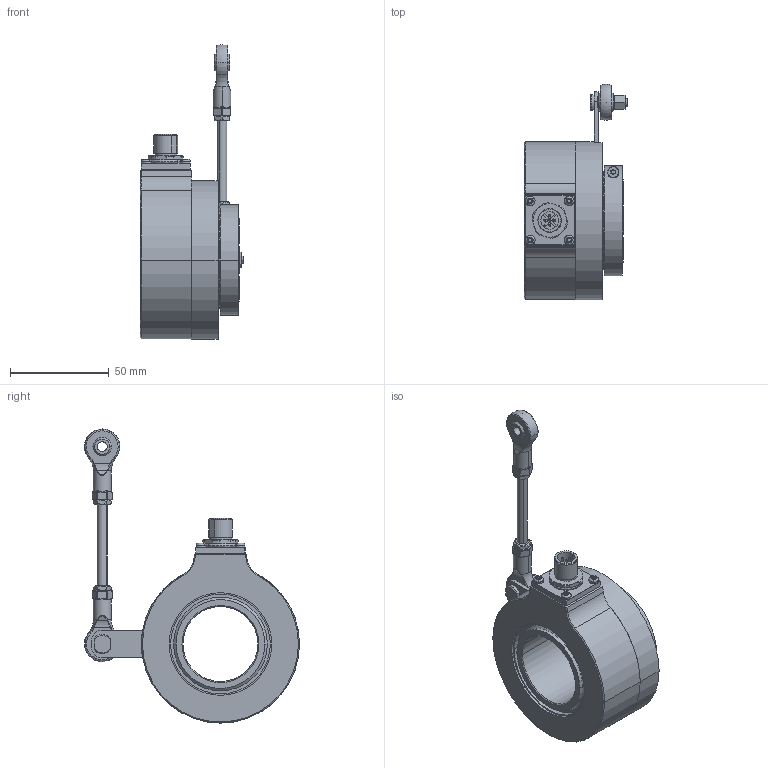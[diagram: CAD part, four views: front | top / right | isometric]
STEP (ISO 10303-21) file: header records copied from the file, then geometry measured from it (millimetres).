
FILE_DESCRIPTION (( 'STEP AP203' ), '1' );
FILE_NAME ('K80I.OXX.XXXXX.XH16838.6XRC6.step', '2025-12-09T08:26:52', ( '' ), ( '' ), 'SwSTEP 2.0', 'SolidWorks 2021', '' );
FILE_SCHEMA (( 'CONFIG_CONTROL_DESIGN' ));
Length unit declared in the file: millimetre
Products named in the file (1): K80I.OXX.XXXXX.XH16838.6XRC6
Bounding box: 52.6 x 108.97 x 149.07 mm (x, y, z)
Surface area: 64559.1 mm2 (no closed solid volume)
Topology: 0 solids, 20 shells, 732 faces, 1819 edges, 1126 vertices
Faces by surface type: plane 255, cylinder 244, cone 111, bspline 76, torus 32, sphere 14
Entity records: 24777 total; most frequent: CARTESIAN_POINT 7697, DIRECTION 3616, ORIENTED_EDGE 3546, EDGE_CURVE 1781, AXIS2_PLACEMENT_3D 1449, VERTEX_POINT 1122, EDGE_LOOP 799, CIRCLE 792
